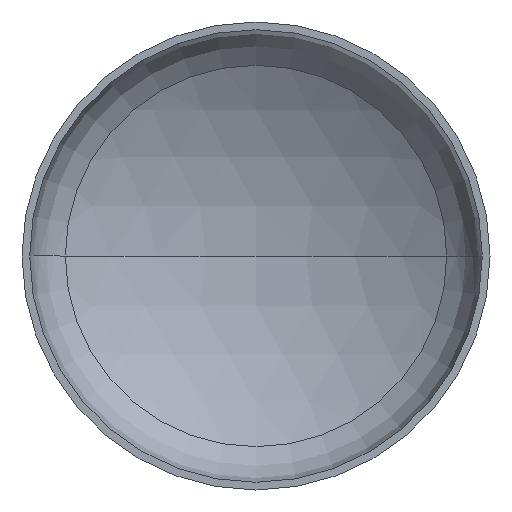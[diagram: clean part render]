
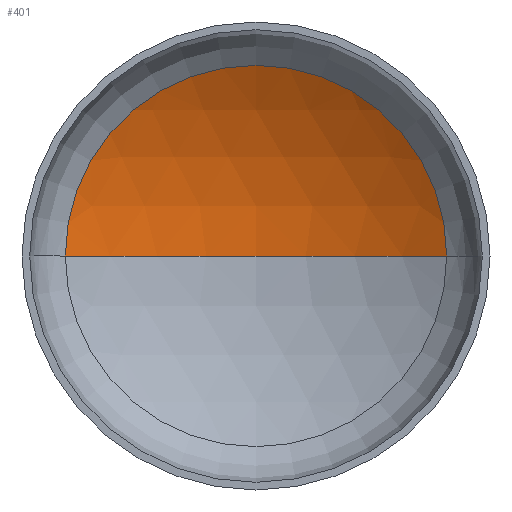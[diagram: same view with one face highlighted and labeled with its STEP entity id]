
A CAD part, front view. The second image highlights one B-rep face of the part: STEP entity #401.
In plain terms, the highlighted spherical face has radius 1600 mm.
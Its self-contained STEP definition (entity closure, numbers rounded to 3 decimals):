
#4 = CARTESIAN_POINT ( 'NONE',  ( -814.884, 366.782, 0. ) ) ;
#5 = ORIENTED_EDGE ( 'NONE', *, *, #162, .T. ) ;
#10 = EDGE_LOOP ( 'NONE', ( #26, #5, #14 ) ) ;
#14 = ORIENTED_EDGE ( 'NONE', *, *, #154, .T. ) ;
#20 = AXIS2_PLACEMENT_3D ( 'NONE', #131, #227, #146 ) ;
#26 = ORIENTED_EDGE ( 'NONE', *, *, #360, .F. ) ;
#42 = VERTEX_POINT ( 'NONE', #261 ) ;
#68 = AXIS2_PLACEMENT_3D ( 'NONE', #218, #230, #225 ) ;
#70 = AXIS2_PLACEMENT_3D ( 'NONE', #375, #394, #258 ) ;
#128 = VERTEX_POINT ( 'NONE', #329 ) ;
#131 = CARTESIAN_POINT ( 'NONE',  ( 0., -1010.158, 0. ) ) ;
#143 = DIRECTION ( 'NONE',  ( -1., 0., 0. ) ) ;
#146 = DIRECTION ( 'NONE',  ( 1., 0., 0. ) ) ;
#150 = CIRCLE ( 'NONE', #68, 1600. ) ;
#152 = CARTESIAN_POINT ( 'NONE',  ( 0., -1010.158, 0. ) ) ;
#154 = EDGE_CURVE ( 'NONE', #42, #182, #337, .T. ) ;
#162 = EDGE_CURVE ( 'NONE', #128, #42, #150, .T. ) ;
#182 = VERTEX_POINT ( 'NONE', #4 ) ;
#216 = DIRECTION ( 'NONE',  ( 0., 0., -1. ) ) ;
#218 = CARTESIAN_POINT ( 'NONE',  ( 0., -1010.158, 0. ) ) ;
#225 = DIRECTION ( 'NONE',  ( -1., 0., 0. ) ) ;
#227 = DIRECTION ( 'NONE',  ( 0., 0., 1. ) ) ;
#230 = DIRECTION ( 'NONE',  ( 0., 0., -1. ) ) ;
#258 = DIRECTION ( 'NONE',  ( 1., 0., 0. ) ) ;
#261 = CARTESIAN_POINT ( 'NONE',  ( 814.884, 366.782, 0. ) ) ;
#305 = CIRCLE ( 'NONE', #20, 1600. ) ;
#329 = CARTESIAN_POINT ( 'NONE',  ( 0., 589.842, 0. ) ) ;
#337 = CIRCLE ( 'NONE', #70, 814.884 ) ;
#339 = AXIS2_PLACEMENT_3D ( 'NONE', #152, #216, #143 ) ;
#348 = SPHERICAL_SURFACE ( 'NONE', #339, 1600. ) ;
#360 = EDGE_CURVE ( 'NONE', #128, #182, #305, .T. ) ;
#375 = CARTESIAN_POINT ( 'NONE',  ( 0., 366.782, 0. ) ) ;
#394 = DIRECTION ( 'NONE',  ( 0., -1., 0. ) ) ;
#401 = ADVANCED_FACE ( 'NONE', ( #404 ), #348, .F. ) ;
#404 = FACE_OUTER_BOUND ( 'NONE', #10, .T. ) ;
